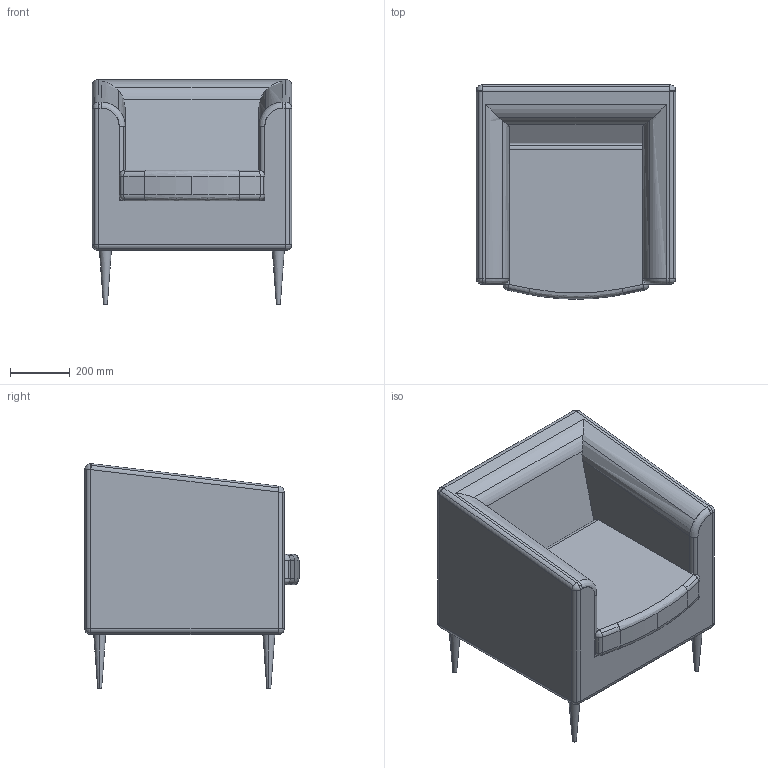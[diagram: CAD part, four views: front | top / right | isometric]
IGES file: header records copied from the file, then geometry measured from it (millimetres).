
Start section: IMSI TurboCAD v14.0
Global section: author: NULL; organization: NULL; date: 20120103.141109; units: millimetre
Bounding box: 670 x 720.51 x 755.63 mm (x, y, z)
Surface area: 3321031.9 mm2 (no closed solid volume)
Topology: 0 solids, 0 shells, 122 faces, 564 edges, 548 vertices
Faces by surface type: revolution 94, extrusion 26, bspline 2
